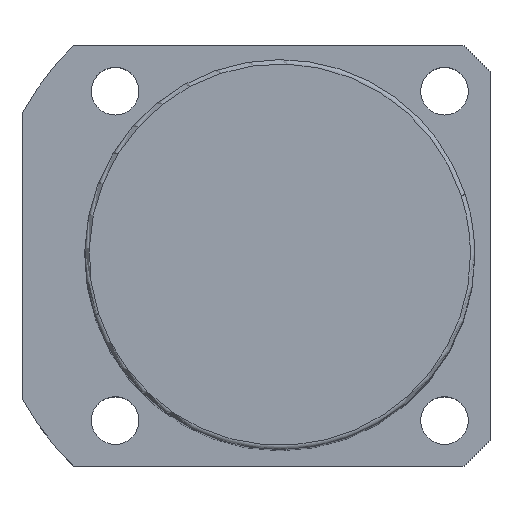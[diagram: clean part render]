
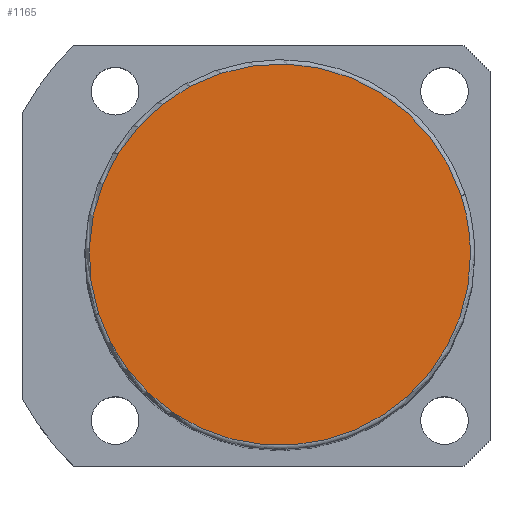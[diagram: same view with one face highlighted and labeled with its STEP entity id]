
A CAD part, top view. The second image highlights one B-rep face of the part: STEP entity #1165.
In plain terms, the highlighted planar face has unit normal (0, 0, 1).
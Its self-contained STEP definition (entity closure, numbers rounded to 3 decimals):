
#1131=CARTESIAN_POINT('',(44.0,0.0,181.5));
#1132=VERTEX_POINT('',#1131);
#1133=CARTESIAN_POINT('',(41.846,13.597,181.5));
#1134=VERTEX_POINT('',#1133);
#1135=CARTESIAN_POINT('',(0.0,0.0,181.5));
#1136=DIRECTION('',(0.0,0.0,1.0));
#1137=DIRECTION('',(1.0,0.0,0.0));
#1138=AXIS2_PLACEMENT_3D('',#1135,#1136,#1137);
#1139=CIRCLE('',#1138,44.0);
#1140=EDGE_CURVE('no 1726',#1132,#1134,#1139,.T.);
#1141=ORIENTED_EDGE('',*,*,#1140,.T.);
#1142=CARTESIAN_POINT('',(-41.846,-13.597,181.5));
#1143=VERTEX_POINT('',#1142);
#1144=CARTESIAN_POINT('',(0.0,0.0,181.5));
#1145=DIRECTION('',(0.0,0.0,1.0));
#1146=DIRECTION('',(1.0,0.0,0.0));
#1147=AXIS2_PLACEMENT_3D('',#1144,#1145,#1146);
#1148=CIRCLE('',#1147,44.0);
#1149=EDGE_CURVE('no 1732',#1134,#1143,#1148,.T.);
#1150=ORIENTED_EDGE('',*,*,#1149,.T.);
#1151=CARTESIAN_POINT('',(0.0,0.0,181.5));
#1152=DIRECTION('',(0.0,0.0,1.0));
#1153=DIRECTION('',(1.0,0.0,0.0));
#1154=AXIS2_PLACEMENT_3D('',#1151,#1152,#1153);
#1155=CIRCLE('',#1154,44.0);
#1156=EDGE_CURVE('no 1736',#1143,#1132,#1155,.T.);
#1157=ORIENTED_EDGE('',*,*,#1156,.T.);
#1158=EDGE_LOOP('',(#1141,#1150,#1157));
#1159=FACE_OUTER_BOUND('',#1158,.T.);
#1160=CARTESIAN_POINT('',(0.0,0.0,181.5));
#1161=DIRECTION('',(0.0,0.0,1.0));
#1162=DIRECTION('',(1.0,0.0,0.0));
#1163=AXIS2_PLACEMENT_3D('',#1160,#1161,#1162);
#1164=PLANE('',#1163);
#1165=ADVANCED_FACE('no 1717',(#1159),#1164,.T.);
